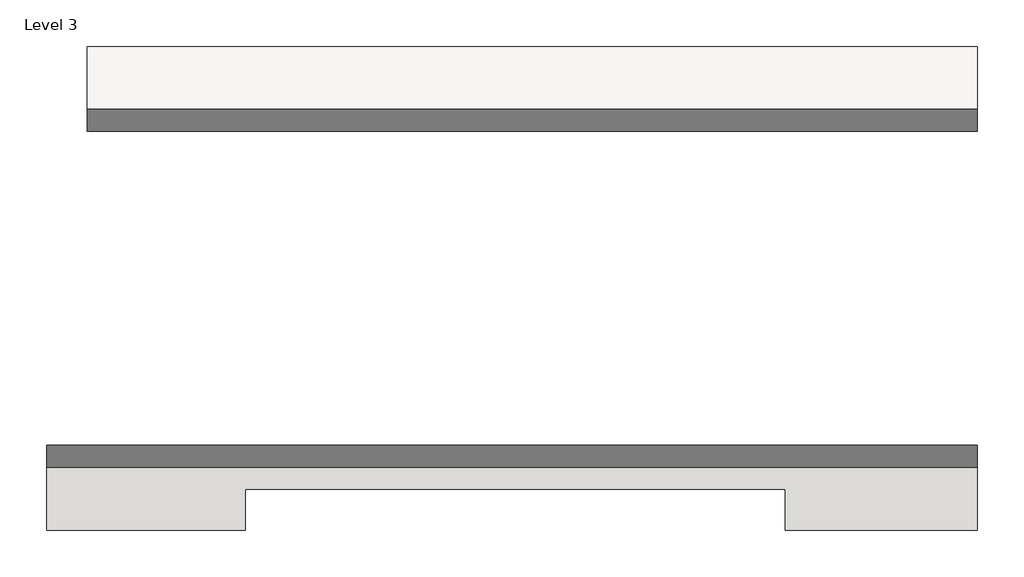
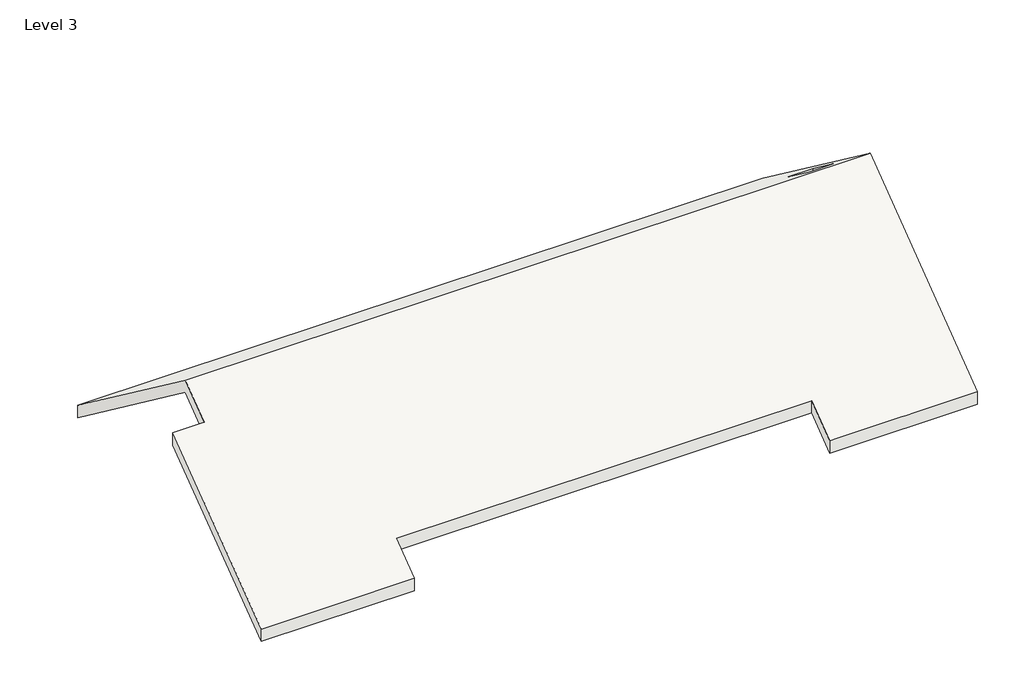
# One storey: 1 roof.
"""IFC4 building model written with IfcOpenShell, lengths in millimetres."""

from ifc_helpers import new_model, si_unit, origin, place, context, project, spatial, faceted_brep, element, save

model = new_model("IFC4")

# Units and contexts
model_context = context("Model", 3, world=origin())
ifc_project = project(units=[si_unit("LENGTHUNIT", "METRE", prefix="MILLI")], contexts=[model_context])

# Site, building, storey
site = spatial("IfcSite", under=ifc_project)
building = spatial("IfcBuilding", under=site)
storey = spatial("IfcBuildingStorey", under=building, Name="Level 3", Elevation=6705.6)

# Roof
placement = place(None, origin())
element("IfcRoof", 1, ObjectType="Generic - 12\"", at=placement, inside=storey, context=model_context, shape_type="Brep", body=[
    faceted_brep([(-176792.1354666, 11098.6757393, 10553.7), (-176792.1354666, 16534.2757393, 6477.0), (-156776.9354666, 16534.2757393, 6477.0), (-156776.9354666, 11098.6757393, 10553.7), (-157386.5354666, 11905.5437199, 9948.5490146), (-157386.5354666, 12937.4187199, 9174.6427646), (-158113.6104666, 12937.4187199, 9174.6427646), (-158113.6104666, 11905.5437199, 9948.5490146), (-156776.9354666, 5663.0757393, 6477.0), (-161094.9354666, 5663.0757393, 6477.0), (-161094.9354666, 6577.4757393, 7162.8), (-173236.1354666, 6577.4757393, 7162.8), (-173236.1354666, 5663.0757393, 6477.0), (-177706.5354666, 5663.0757393, 6477.0), (-177706.5354666, 10133.4757393, 9829.8), (-176792.1354666, 10133.4757393, 9829.8), (-176792.1354666, 16534.2757393, 6858.0), (-176792.1354666, 11098.6757393, 10934.7), (-156776.9354666, 11098.6757393, 10934.7), (-156776.9354666, 16534.2757393, 6858.0), (-157386.5354666, 12937.4187199, 9555.6427646), (-157386.5354666, 11905.5437199, 10329.5490146), (-158113.6104666, 11905.5437199, 10329.5490146), (-158113.6104666, 12937.4187199, 9555.6427646), (-176792.1354666, 10133.4757393, 10210.8), (-177706.5354666, 10133.4757393, 10210.8), (-177706.5354666, 5663.0757393, 6858.0), (-173236.1354666, 5663.0757393, 6858.0), (-173236.1354666, 6577.4757393, 7543.8), (-161094.9354666, 6577.4757393, 7543.8), (-161094.9354666, 5663.0757393, 6858.0), (-156776.9354666, 5663.0757393, 6858.0)], [[[0, 1, 2, 3], [4, 5, 6, 7]], [[0, 3, 8, 9, 10, 11, 12, 13, 14, 15]], [[16, 17, 18, 19], [20, 21, 22, 23]], [[18, 17, 24, 25, 26, 27, 28, 29, 30, 31]], [[27, 26, 13, 12]], [[16, 19, 2, 1]], [[1, 0, 15, 24, 17, 16]], [[15, 14, 25, 24]], [[14, 13, 26, 25]], [[12, 11, 28, 27]], [[11, 10, 29, 28]], [[10, 9, 30, 29]], [[9, 8, 31, 30]], [[3, 2, 19, 18, 31, 8]], [[20, 5, 4, 21]], [[21, 4, 7, 22]], [[22, 7, 6, 23]], [[5, 20, 23, 6]]]),
])

save(model, "model.ifc")
